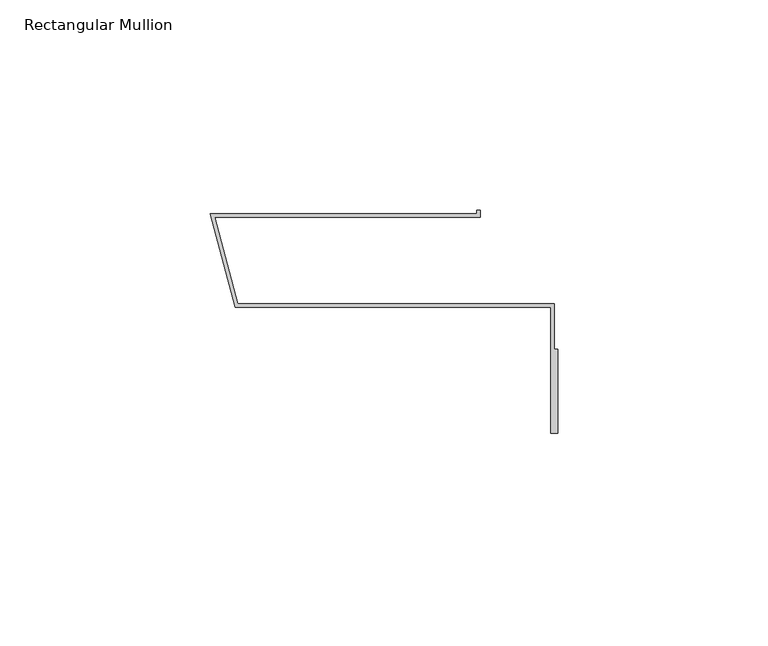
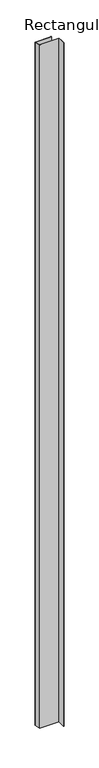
"""IFC4 building model written with IfcOpenShell, lengths in millimetres: member geometry, Rectangular Mullion : TE-V-05_01_Internal corner i L."""

from ifc_helpers import new_model, si_unit, frame, origin, place, context, project, spatial, polyline, outline, extrude, source, transform, mapped, element, save


def rectangular_mullion_c9cecb53(model_context):
    return source(origin(), model_context, "Body", "SweptSolid", [
        extrude(outline(polyline([(-1.6, -23.0), (-76.6, -23.0), (-82.5484721, -0.8), (-19.2, -0.8), (-19.2, 0.0), (-18.4, 0.0), (-18.4, -1.6), (-81.5058918, -1.6), (-75.9861384, -22.2), (-0.8, -22.2), (-0.8, -33.0), (0.0, -33.0), (0.0, -53.0), (-1.6, -53.0), (-1.6, -23.0)])), frame((0.0, 0.0, -2793.3616932), z_axis=(0.0, 0.0, 1.0), x_axis=(1.0, 0.0, 0.0)), (0.0, 0.0, 1.0), 2793.3616932),
    ])


if __name__ == "__main__":
    model = new_model("IFC4")
    model_context = context("Model", 3, world=origin())
    ifc_project = project(units=[si_unit("LENGTHUNIT", "METRE", prefix="MILLI")], contexts=[model_context])
    site = spatial("IfcSite", under=ifc_project)
    building = spatial("IfcBuilding", under=site)
    placement = place(None, origin())
    rectangular_mullion_shape = rectangular_mullion_c9cecb53(model_context)
    element("IfcMember", 1, ObjectType="Rectangular Mullion : TE-V-05_01_Internal corner i L", at=placement, inside=building, context=model_context, shape_type="MappedRepresentation", body=[
        mapped(rectangular_mullion_shape, transform((0.0, 0.0, 0.0), x_axis=(1.0, 0.0, 0.0), y_axis=(0.0, 1.0, 0.0), z_axis=(0.0, 0.0, 1.0))),
    ])
    save(model, "model.ifc")
